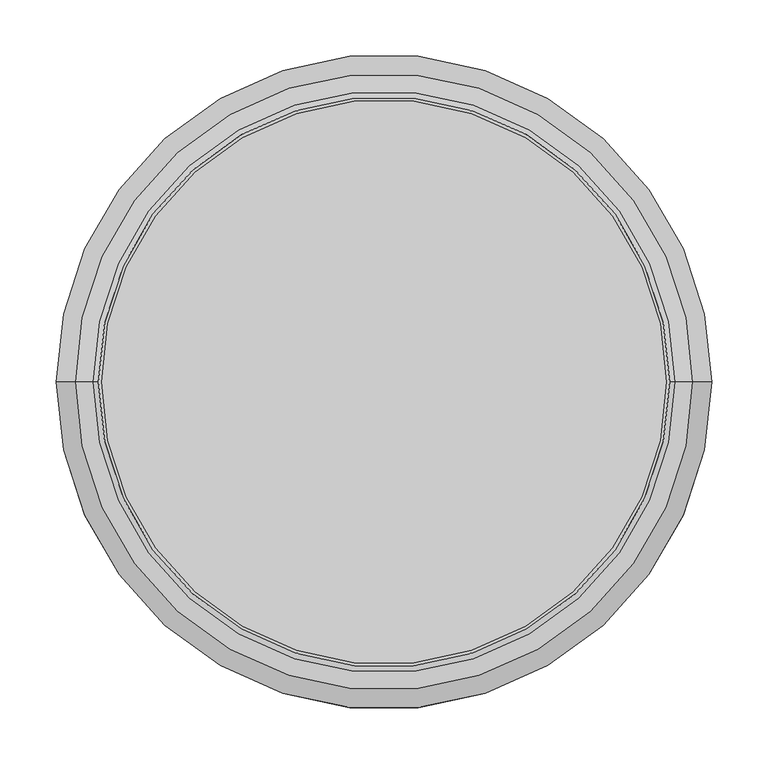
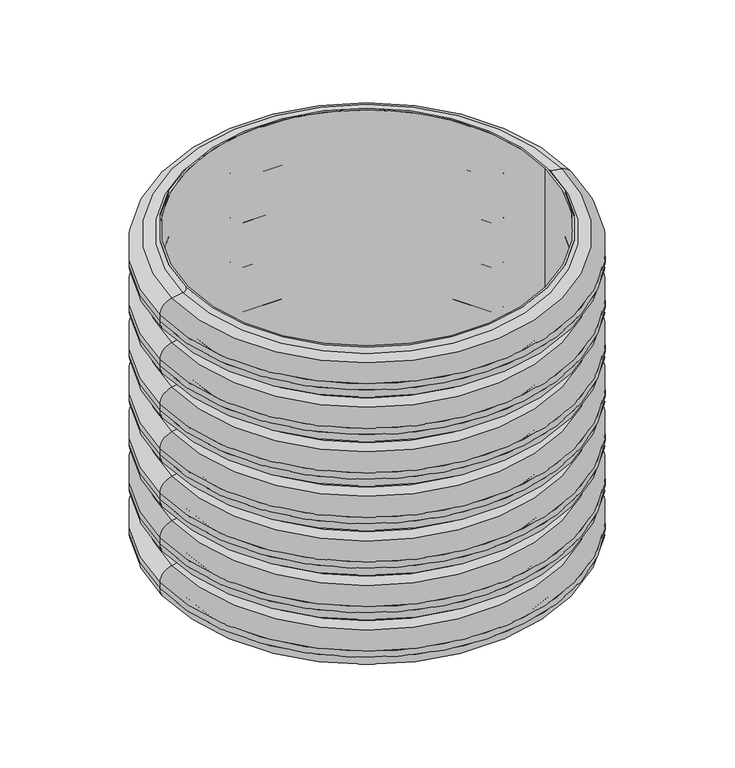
"""IFC4 building model written with IfcOpenShell, lengths in millimetres: proxy geometry, RSK C3 Chamber Sandcatch : RSK C3 C.SC."""

from ifc_helpers import new_model, si_unit, point, frame, origin, origin_with_axes, place, context, project, spatial, polyline, circle_curve, ellipse_curve, trimmed, source, transform, mapped, element, save
from ifc_brep_helpers import plane_surface, cylinder_surface, revolved_surface, advanced_brep


def generic_models_14b42d2b(model_context):
    return source(origin(), model_context, "Body", "AdvancedBrep", [
        advanced_brep(
        [(257.6543247, 0.0, -456.0911535), (-257.6543247, 0.0, -456.0911535), (-252.6962138, 0.0, -462.0), (252.6962138, 0.0, -462.0), (273.4729636, 0.0, -453.3019007), (-273.4729636, 0.0, -453.3019007), (290.0, 0.0, -433.6057456), (-290.0, 0.0, -433.6057456), (290.0, 0.0, -424.3484433), (-290.0, 0.0, -424.3484433), (273.4729636, 0.0, -404.6522882), (-273.4729636, 0.0, -404.6522882), (257.7842286, 0.0, -401.885941), (-257.7842286, 0.0, -401.885941), (-250.0, 0.0, 0.0229056), (250.0, 0.0, 0.0229056), (250.0, 0.0, -447.0), (-250.0, 0.0, -447.0), (257.7842286, 0.0, -390.0682479), (-257.7842286, 0.0, -390.0682479), (273.4729636, 0.0, -387.3019007), (-273.4729636, 0.0, -387.3019007), (290.0, 0.0, -367.6057456), (-290.0, 0.0, -367.6057456), (290.0, 0.0, -358.3484433), (-290.0, 0.0, -358.3484433), (273.4729636, 0.0, -338.6522882), (-273.4729636, 0.0, -338.6522882), (257.7842286, 0.0, -335.885941), (-257.7842286, 0.0, -335.885941), (257.7842286, 0.0, -324.0682479), (-257.7842286, 0.0, -324.0682479), (273.4729636, 0.0, -321.3019007), (-273.4729636, 0.0, -321.3019007), (290.0, 0.0, -301.6057456), (-290.0, 0.0, -301.6057456), (290.0, 0.0, -292.3484433), (-290.0, 0.0, -292.3484433), (273.4729636, 0.0, -272.6522882), (-273.4729636, 0.0, -272.6522882), (257.7842286, 0.0, -269.885941), (-257.7842286, 0.0, -269.885941), (257.7842286, 0.0, -258.0682479), (-257.7842286, 0.0, -258.0682479), (273.4729636, 0.0, -255.3019007), (-273.4729636, 0.0, -255.3019007), (290.0, 0.0, -235.6057456), (-290.0, 0.0, -235.6057456), (290.0, 0.0, -226.3484433), (-290.0, 0.0, -226.3484433), (273.4729636, 0.0, -206.6522882), (-273.4729636, 0.0, -206.6522882), (257.7842286, 0.0, -203.885941), (-257.7842286, 0.0, -203.885941), (257.7842286, 0.0, -192.0682479), (-257.7842286, 0.0, -192.0682479), (273.4729636, 0.0, -189.3019007), (-273.4729636, 0.0, -189.3019007), (290.0, 0.0, -169.6057456), (-290.0, 0.0, -169.6057456), (290.0, 0.0, -160.3484433), (-290.0, 0.0, -160.3484433), (273.4729636, 0.0, -140.6522882), (-273.4729636, 0.0, -140.6522882), (257.7842286, 0.0, -137.885941), (-257.7842286, 0.0, -137.885941), (257.7842286, 0.0, -126.0682479), (-257.7842286, 0.0, -126.0682479), (273.4729636, 0.0, -123.3019007), (-273.4729636, 0.0, -123.3019007), (290.0, 0.0, -103.6057456), (-290.0, 0.0, -103.6057456), (290.0, 0.0, -94.3484433), (-290.0, 0.0, -94.3484433), (273.4729636, 0.0, -74.6522882), (-273.4729636, 0.0, -74.6522882), (257.7842286, 0.0, -71.885941), (-257.7842286, 0.0, -71.885941), (257.7842286, 0.0, -60.0682479), (-257.7842286, 0.0, -60.0682479), (273.4729636, 0.0, -57.3019007), (-273.4729636, 0.0, -57.3019007), (290.0, 0.0, -37.6057456), (-290.0, 0.0, -37.6057456), (290.0, 0.0, -28.3484433), (-290.0, 0.0, -28.3484433), (273.4729636, 0.0, -8.6522882), (-273.4729636, 0.0, -8.6522882), (257.7842286, 0.0, -5.885941), (-257.7842286, 0.0, -5.885941), (252.8261176, 0.0, 0.0229056), (-252.8261176, 0.0, 0.0229056)],
        [
            (0, 1, circle_curve(frame((0.0, 0.0, -456.0911535), z_axis=(0.0, 0.0, -1.0), x_axis=(-1.0, 0.0, 0.0)), 257.6543247)),
            (1, 2, circle_curve(frame((-258.6962138, 0.0, -462.0), z_axis=(0.0, 1.0, 0.0), x_axis=(-1.0, 0.0, 0.0)), 6.0)),
            (2, 3, circle_curve(frame((0.0, 0.0, -462.0), z_axis=(0.0, 0.0, 1.0), x_axis=(-1.0, 0.0, 0.0)), 252.6962138)),
            (3, 0, circle_curve(frame((258.6962138, 0.0, -462.0), z_axis=(0.0, 1.0, 0.0), x_axis=(1.0, 0.0, 0.0)), 6.0)),
            (0, 4),
            (4, 5, circle_curve(frame((0.0, 0.0, -453.3019007), z_axis=(0.0, 0.0, -1.0), x_axis=(-1.0, 0.0, 0.0)), 273.4729636)),
            (5, 1),
            (4, 6, circle_curve(frame((270.0, 0.0, -433.6057456), z_axis=(0.0, -1.0, 0.0), x_axis=(1.0, 0.0, 0.0)), 20.0)),
            (6, 7, circle_curve(frame((0.0, 0.0, -433.6057456), z_axis=(0.0, 0.0, -1.0), x_axis=(-1.0, 0.0, 0.0)), 290.0)),
            (7, 5, circle_curve(frame((-270.0, 0.0, -433.6057456), z_axis=(0.0, -1.0, 0.0), x_axis=(-1.0, 0.0, 0.0)), 20.0)),
            (6, 8),
            (8, 9, circle_curve(frame((0.0, 0.0, -424.3484433), z_axis=(0.0, 0.0, -1.0), x_axis=(-1.0, 0.0, 0.0)), 290.0)),
            (9, 7),
            (8, 10, circle_curve(frame((270.0, 0.0, -424.3484433), z_axis=(0.0, -1.0, 0.0), x_axis=(1.0, 0.0, 0.0)), 20.0)),
            (10, 11, circle_curve(frame((0.0, 0.0, -404.6522882), z_axis=(0.0, 0.0, -1.0), x_axis=(-1.0, 0.0, 0.0)), 273.4729636)),
            (11, 9, circle_curve(frame((-270.0, 0.0, -424.3484433), z_axis=(0.0, -1.0, 0.0), x_axis=(-1.0, 0.0, 0.0)), 20.0)),
            (10, 12),
            (12, 13, circle_curve(frame((0.0, 0.0, -401.885941), z_axis=(0.0, 0.0, -1.0), x_axis=(-1.0, 0.0, 0.0)), 257.7842286)),
            (13, 11),
            (14, 15, circle_curve(frame((0.0, 0.0, 0.0229056), z_axis=(0.0, 0.0, 1.0), x_axis=(-1.0, 0.0, 0.0)), 250.0)),
            (15, 16),
            (16, 17, circle_curve(frame((0.0, 0.0, -447.0), z_axis=(0.0, 0.0, -1.0), x_axis=(-1.0, 0.0, 0.0)), 250.0)),
            (17, 14),
            (1, 0, circle_curve(frame((0.0, 0.0, -456.0911535), z_axis=(0.0, 0.0, -1.0), x_axis=(1.0, 0.0, 0.0)), 257.6543247)),
            (3, 2, circle_curve(frame((0.0, 0.0, -462.0), z_axis=(0.0, 0.0, 1.0), x_axis=(1.0, 0.0, 0.0)), 252.6962138)),
            (5, 4, circle_curve(frame((0.0, 0.0, -453.3019007), z_axis=(0.0, 0.0, -1.0), x_axis=(1.0, 0.0, 0.0)), 273.4729636)),
            (7, 6, circle_curve(frame((0.0, 0.0, -433.6057456), z_axis=(0.0, 0.0, -1.0), x_axis=(1.0, 0.0, 0.0)), 290.0)),
            (9, 8, circle_curve(frame((0.0, 0.0, -424.3484433), z_axis=(0.0, 0.0, -1.0), x_axis=(1.0, 0.0, 0.0)), 290.0)),
            (11, 10, circle_curve(frame((0.0, 0.0, -404.6522882), z_axis=(0.0, 0.0, -1.0), x_axis=(1.0, 0.0, 0.0)), 273.4729636)),
            (13, 12, circle_curve(frame((0.0, 0.0, -401.885941), z_axis=(0.0, 0.0, -1.0), x_axis=(1.0, 0.0, 0.0)), 257.7842286)),
            (15, 14, circle_curve(frame((0.0, 0.0, 0.0229056), z_axis=(0.0, 0.0, 1.0), x_axis=(1.0, 0.0, 0.0)), 250.0)),
            (17, 16, circle_curve(frame((0.0, 0.0, -447.0), z_axis=(0.0, 0.0, -1.0), x_axis=(1.0, 0.0, 0.0)), 250.0)),
            (12, 18, circle_curve(frame((258.8261176, 0.0, -395.9770944), z_axis=(0.0, 1.0, 0.0), x_axis=(1.0, 0.0, 0.0)), 6.0)),
            (18, 19, circle_curve(frame((0.0, 0.0, -390.0682479), z_axis=(0.0, 0.0, -1.0), x_axis=(-1.0, 0.0, 0.0)), 257.7842286)),
            (19, 13, circle_curve(frame((-258.8261176, 0.0, -395.9770944), z_axis=(0.0, 1.0, 0.0), x_axis=(-1.0, 0.0, 0.0)), 6.0)),
            (18, 20),
            (20, 21, circle_curve(frame((0.0, 0.0, -387.3019007), z_axis=(0.0, 0.0, -1.0), x_axis=(-1.0, 0.0, 0.0)), 273.4729636)),
            (21, 19),
            (20, 22, circle_curve(frame((270.0, 0.0, -367.6057456), z_axis=(0.0, -1.0, 0.0), x_axis=(1.0, 0.0, 0.0)), 20.0)),
            (22, 23, circle_curve(frame((0.0, 0.0, -367.6057456), z_axis=(0.0, 0.0, -1.0), x_axis=(-1.0, 0.0, 0.0)), 290.0)),
            (23, 21, circle_curve(frame((-270.0, 0.0, -367.6057456), z_axis=(0.0, -1.0, 0.0), x_axis=(-1.0, 0.0, 0.0)), 20.0)),
            (22, 24),
            (24, 25, circle_curve(frame((0.0, 0.0, -358.3484433), z_axis=(0.0, 0.0, -1.0), x_axis=(-1.0, 0.0, 0.0)), 290.0)),
            (25, 23),
            (24, 26, circle_curve(frame((270.0, 0.0, -358.3484433), z_axis=(0.0, -1.0, 0.0), x_axis=(1.0, 0.0, 0.0)), 20.0)),
            (26, 27, circle_curve(frame((0.0, 0.0, -338.6522882), z_axis=(0.0, 0.0, -1.0), x_axis=(-1.0, 0.0, 0.0)), 273.4729636)),
            (27, 25, circle_curve(frame((-270.0, 0.0, -358.3484433), z_axis=(0.0, -1.0, 0.0), x_axis=(-1.0, 0.0, 0.0)), 20.0)),
            (26, 28),
            (28, 29, circle_curve(frame((0.0, 0.0, -335.885941), z_axis=(0.0, 0.0, -1.0), x_axis=(-1.0, 0.0, 0.0)), 257.7842286)),
            (29, 27),
            (28, 30, circle_curve(frame((258.8261176, 0.0, -329.9770944), z_axis=(0.0, 1.0, 0.0), x_axis=(1.0, 0.0, 0.0)), 6.0)),
            (30, 31, circle_curve(frame((0.0, 0.0, -324.0682479), z_axis=(0.0, 0.0, -1.0), x_axis=(-1.0, 0.0, 0.0)), 257.7842286)),
            (31, 29, circle_curve(frame((-258.8261176, 0.0, -329.9770944), z_axis=(0.0, 1.0, 0.0), x_axis=(-1.0, 0.0, 0.0)), 6.0)),
            (30, 32),
            (32, 33, circle_curve(frame((0.0, 0.0, -321.3019007), z_axis=(0.0, 0.0, -1.0), x_axis=(-1.0, 0.0, 0.0)), 273.4729636)),
            (33, 31),
            (32, 34, circle_curve(frame((270.0, 0.0, -301.6057456), z_axis=(0.0, -1.0, 0.0), x_axis=(1.0, 0.0, 0.0)), 20.0)),
            (34, 35, circle_curve(frame((0.0, 0.0, -301.6057456), z_axis=(0.0, 0.0, -1.0), x_axis=(-1.0, 0.0, 0.0)), 290.0)),
            (35, 33, circle_curve(frame((-270.0, 0.0, -301.6057456), z_axis=(0.0, -1.0, 0.0), x_axis=(-1.0, 0.0, 0.0)), 20.0)),
            (34, 36),
            (36, 37, circle_curve(frame((0.0, 0.0, -292.3484433), z_axis=(0.0, 0.0, -1.0), x_axis=(-1.0, 0.0, 0.0)), 290.0)),
            (37, 35),
            (36, 38, circle_curve(frame((270.0, 0.0, -292.3484433), z_axis=(0.0, -1.0, 0.0), x_axis=(1.0, 0.0, 0.0)), 20.0)),
            (38, 39, circle_curve(frame((0.0, 0.0, -272.6522882), z_axis=(0.0, 0.0, -1.0), x_axis=(-1.0, 0.0, 0.0)), 273.4729636)),
            (39, 37, circle_curve(frame((-270.0, 0.0, -292.3484433), z_axis=(0.0, -1.0, 0.0), x_axis=(-1.0, 0.0, 0.0)), 20.0)),
            (38, 40),
            (40, 41, circle_curve(frame((0.0, 0.0, -269.885941), z_axis=(0.0, 0.0, -1.0), x_axis=(-1.0, 0.0, 0.0)), 257.7842286)),
            (41, 39),
            (40, 42, circle_curve(frame((258.8261176, 0.0, -263.9770944), z_axis=(0.0, 1.0, 0.0), x_axis=(1.0, 0.0, 0.0)), 6.0)),
            (42, 43, circle_curve(frame((0.0, 0.0, -258.0682479), z_axis=(0.0, 0.0, -1.0), x_axis=(-1.0, 0.0, 0.0)), 257.7842286)),
            (43, 41, circle_curve(frame((-258.8261176, 0.0, -263.9770944), z_axis=(0.0, 1.0, 0.0), x_axis=(-1.0, 0.0, 0.0)), 6.0)),
            (42, 44),
            (44, 45, circle_curve(frame((0.0, 0.0, -255.3019007), z_axis=(0.0, 0.0, -1.0), x_axis=(-1.0, 0.0, 0.0)), 273.4729636)),
            (45, 43),
            (44, 46, circle_curve(frame((270.0, 0.0, -235.6057456), z_axis=(0.0, -1.0, 0.0), x_axis=(1.0, 0.0, 0.0)), 20.0)),
            (46, 47, circle_curve(frame((0.0, 0.0, -235.6057456), z_axis=(0.0, 0.0, -1.0), x_axis=(-1.0, 0.0, 0.0)), 290.0)),
            (47, 45, circle_curve(frame((-270.0, 0.0, -235.6057456), z_axis=(0.0, -1.0, 0.0), x_axis=(-1.0, 0.0, 0.0)), 20.0)),
            (46, 48),
            (48, 49, circle_curve(frame((0.0, 0.0, -226.3484433), z_axis=(0.0, 0.0, -1.0), x_axis=(-1.0, 0.0, 0.0)), 290.0)),
            (49, 47),
            (48, 50, circle_curve(frame((270.0, 0.0, -226.3484433), z_axis=(0.0, -1.0, 0.0), x_axis=(1.0, 0.0, 0.0)), 20.0)),
            (50, 51, circle_curve(frame((0.0, 0.0, -206.6522882), z_axis=(0.0, 0.0, -1.0), x_axis=(-1.0, 0.0, 0.0)), 273.4729636)),
            (51, 49, circle_curve(frame((-270.0, 0.0, -226.3484433), z_axis=(0.0, -1.0, 0.0), x_axis=(-1.0, 0.0, 0.0)), 20.0)),
            (50, 52),
            (52, 53, circle_curve(frame((0.0, 0.0, -203.885941), z_axis=(0.0, 0.0, -1.0), x_axis=(-1.0, 0.0, 0.0)), 257.7842286)),
            (53, 51),
            (52, 54, circle_curve(frame((258.8261176, 0.0, -197.9770944), z_axis=(0.0, 1.0, 0.0), x_axis=(1.0, 0.0, 0.0)), 6.0)),
            (54, 55, circle_curve(frame((0.0, 0.0, -192.0682479), z_axis=(0.0, 0.0, -1.0), x_axis=(-1.0, 0.0, 0.0)), 257.7842286)),
            (55, 53, circle_curve(frame((-258.8261176, 0.0, -197.9770944), z_axis=(0.0, 1.0, 0.0), x_axis=(-1.0, 0.0, 0.0)), 6.0)),
            (54, 56),
            (56, 57, circle_curve(frame((0.0, 0.0, -189.3019007), z_axis=(0.0, 0.0, -1.0), x_axis=(-1.0, 0.0, 0.0)), 273.4729636)),
            (57, 55),
            (56, 58, circle_curve(frame((270.0, 0.0, -169.6057456), z_axis=(0.0, -1.0, 0.0), x_axis=(1.0, 0.0, 0.0)), 20.0)),
            (58, 59, circle_curve(frame((0.0, 0.0, -169.6057456), z_axis=(0.0, 0.0, -1.0), x_axis=(-1.0, 0.0, 0.0)), 290.0)),
            (59, 57, circle_curve(frame((-270.0, 0.0, -169.6057456), z_axis=(0.0, -1.0, 0.0), x_axis=(-1.0, 0.0, 0.0)), 20.0)),
            (58, 60),
            (60, 61, circle_curve(frame((0.0, 0.0, -160.3484433), z_axis=(0.0, 0.0, -1.0), x_axis=(-1.0, 0.0, 0.0)), 290.0)),
            (61, 59),
            (60, 62, circle_curve(frame((270.0, 0.0, -160.3484433), z_axis=(0.0, -1.0, 0.0), x_axis=(1.0, 0.0, 0.0)), 20.0)),
            (62, 63, circle_curve(frame((0.0, 0.0, -140.6522882), z_axis=(0.0, 0.0, -1.0), x_axis=(-1.0, 0.0, 0.0)), 273.4729636)),
            (63, 61, circle_curve(frame((-270.0, 0.0, -160.3484433), z_axis=(0.0, -1.0, 0.0), x_axis=(-1.0, 0.0, 0.0)), 20.0)),
            (62, 64),
            (64, 65, circle_curve(frame((0.0, 0.0, -137.885941), z_axis=(0.0, 0.0, -1.0), x_axis=(-1.0, 0.0, 0.0)), 257.7842286)),
            (65, 63),
            (64, 66, circle_curve(frame((258.8261176, 0.0, -131.9770944), z_axis=(0.0, 1.0, 0.0), x_axis=(1.0, 0.0, 0.0)), 6.0)),
            (66, 67, circle_curve(frame((0.0, 0.0, -126.0682479), z_axis=(0.0, 0.0, -1.0), x_axis=(-1.0, 0.0, 0.0)), 257.7842286)),
            (67, 65, circle_curve(frame((-258.8261176, 0.0, -131.9770944), z_axis=(0.0, 1.0, 0.0), x_axis=(-1.0, 0.0, 0.0)), 6.0)),
            (66, 68),
            (68, 69, circle_curve(frame((0.0, 0.0, -123.3019007), z_axis=(0.0, 0.0, -1.0), x_axis=(-1.0, 0.0, 0.0)), 273.4729636)),
            (69, 67),
            (68, 70, circle_curve(frame((270.0, 0.0, -103.6057456), z_axis=(0.0, -1.0, 0.0), x_axis=(1.0, 0.0, 0.0)), 20.0)),
            (70, 71, circle_curve(frame((0.0, 0.0, -103.6057456), z_axis=(0.0, 0.0, -1.0), x_axis=(-1.0, 0.0, 0.0)), 290.0)),
            (71, 69, circle_curve(frame((-270.0, 0.0, -103.6057456), z_axis=(0.0, -1.0, 0.0), x_axis=(-1.0, 0.0, 0.0)), 20.0)),
            (70, 72),
            (72, 73, circle_curve(frame((0.0, 0.0, -94.3484433), z_axis=(0.0, 0.0, -1.0), x_axis=(-1.0, 0.0, 0.0)), 290.0)),
            (73, 71),
            (72, 74, circle_curve(frame((270.0, 0.0, -94.3484433), z_axis=(0.0, -1.0, 0.0), x_axis=(1.0, 0.0, 0.0)), 20.0)),
            (74, 75, circle_curve(frame((0.0, 0.0, -74.6522882), z_axis=(0.0, 0.0, -1.0), x_axis=(-1.0, 0.0, 0.0)), 273.4729636)),
            (75, 73, circle_curve(frame((-270.0, 0.0, -94.3484433), z_axis=(0.0, -1.0, 0.0), x_axis=(-1.0, 0.0, 0.0)), 20.0)),
            (74, 76),
            (76, 77, circle_curve(frame((0.0, 0.0, -71.885941), z_axis=(0.0, 0.0, -1.0), x_axis=(-1.0, 0.0, 0.0)), 257.7842286)),
            (77, 75),
            (76, 78, circle_curve(frame((258.8261176, 0.0, -65.9770944), z_axis=(0.0, 1.0, 0.0), x_axis=(1.0, 0.0, 0.0)), 6.0)),
            (78, 79, circle_curve(frame((0.0, 0.0, -60.0682479), z_axis=(0.0, 0.0, -1.0), x_axis=(-1.0, 0.0, 0.0)), 257.7842286)),
            (79, 77, circle_curve(frame((-258.8261176, 0.0, -65.9770944), z_axis=(0.0, 1.0, 0.0), x_axis=(-1.0, 0.0, 0.0)), 6.0)),
            (78, 80),
            (80, 81, circle_curve(frame((0.0, 0.0, -57.3019007), z_axis=(0.0, 0.0, -1.0), x_axis=(-1.0, 0.0, 0.0)), 273.4729636)),
            (81, 79),
            (80, 82, circle_curve(frame((270.0, 0.0, -37.6057456), z_axis=(0.0, -1.0, 0.0), x_axis=(1.0, 0.0, 0.0)), 20.0)),
            (82, 83, circle_curve(frame((0.0, 0.0, -37.6057456), z_axis=(0.0, 0.0, -1.0), x_axis=(-1.0, 0.0, 0.0)), 290.0)),
            (83, 81, circle_curve(frame((-270.0, 0.0, -37.6057456), z_axis=(0.0, -1.0, 0.0), x_axis=(-1.0, 0.0, 0.0)), 20.0)),
            (82, 84),
            (84, 85, circle_curve(frame((0.0, 0.0, -28.3484433), z_axis=(0.0, 0.0, -1.0), x_axis=(-1.0, 0.0, 0.0)), 290.0)),
            (85, 83),
            (84, 86, circle_curve(frame((270.0, 0.0, -28.3484433), z_axis=(0.0, -1.0, 0.0), x_axis=(1.0, 0.0, 0.0)), 20.0)),
            (86, 87, circle_curve(frame((0.0, 0.0, -8.6522882), z_axis=(0.0, 0.0, -1.0), x_axis=(-1.0, 0.0, 0.0)), 273.4729636)),
            (87, 85, circle_curve(frame((-270.0, 0.0, -28.3484433), z_axis=(0.0, -1.0, 0.0), x_axis=(-1.0, 0.0, 0.0)), 20.0)),
            (86, 88),
            (88, 89, circle_curve(frame((0.0, 0.0, -5.885941), z_axis=(0.0, 0.0, -1.0), x_axis=(-1.0, 0.0, 0.0)), 257.7842286)),
            (89, 87),
            (88, 90, circle_curve(frame((258.8261176, 0.0, 0.0229056), z_axis=(0.0, 1.0, 0.0), x_axis=(1.0, 0.0, 0.0)), 6.0)),
            (90, 91, circle_curve(frame((0.0, 0.0, 0.0229056), z_axis=(0.0, 0.0, -1.0), x_axis=(-1.0, 0.0, 0.0)), 252.8261176)),
            (91, 89, circle_curve(frame((-258.8261176, 0.0, 0.0229056), z_axis=(0.0, 1.0, 0.0), x_axis=(-1.0, 0.0, 0.0)), 6.0)),
            (19, 18, circle_curve(frame((0.0, 0.0, -390.0682479), z_axis=(0.0, 0.0, -1.0), x_axis=(1.0, 0.0, 0.0)), 257.7842286)),
            (21, 20, circle_curve(frame((0.0, 0.0, -387.3019007), z_axis=(0.0, 0.0, -1.0), x_axis=(1.0, 0.0, 0.0)), 273.4729636)),
            (23, 22, circle_curve(frame((0.0, 0.0, -367.6057456), z_axis=(0.0, 0.0, -1.0), x_axis=(1.0, 0.0, 0.0)), 290.0)),
            (25, 24, circle_curve(frame((0.0, 0.0, -358.3484433), z_axis=(0.0, 0.0, -1.0), x_axis=(1.0, 0.0, 0.0)), 290.0)),
            (27, 26, circle_curve(frame((0.0, 0.0, -338.6522882), z_axis=(0.0, 0.0, -1.0), x_axis=(1.0, 0.0, 0.0)), 273.4729636)),
            (29, 28, circle_curve(frame((0.0, 0.0, -335.885941), z_axis=(0.0, 0.0, -1.0), x_axis=(1.0, 0.0, 0.0)), 257.7842286)),
            (31, 30, circle_curve(frame((0.0, 0.0, -324.0682479), z_axis=(0.0, 0.0, -1.0), x_axis=(1.0, 0.0, 0.0)), 257.7842286)),
            (33, 32, circle_curve(frame((0.0, 0.0, -321.3019007), z_axis=(0.0, 0.0, -1.0), x_axis=(1.0, 0.0, 0.0)), 273.4729636)),
            (35, 34, circle_curve(frame((0.0, 0.0, -301.6057456), z_axis=(0.0, 0.0, -1.0), x_axis=(1.0, 0.0, 0.0)), 290.0)),
            (37, 36, circle_curve(frame((0.0, 0.0, -292.3484433), z_axis=(0.0, 0.0, -1.0), x_axis=(1.0, 0.0, 0.0)), 290.0)),
            (39, 38, circle_curve(frame((0.0, 0.0, -272.6522882), z_axis=(0.0, 0.0, -1.0), x_axis=(1.0, 0.0, 0.0)), 273.4729636)),
            (41, 40, circle_curve(frame((0.0, 0.0, -269.885941), z_axis=(0.0, 0.0, -1.0), x_axis=(1.0, 0.0, 0.0)), 257.7842286)),
            (43, 42, circle_curve(frame((0.0, 0.0, -258.0682479), z_axis=(0.0, 0.0, -1.0), x_axis=(1.0, 0.0, 0.0)), 257.7842286)),
            (45, 44, circle_curve(frame((0.0, 0.0, -255.3019007), z_axis=(0.0, 0.0, -1.0), x_axis=(1.0, 0.0, 0.0)), 273.4729636)),
            (47, 46, circle_curve(frame((0.0, 0.0, -235.6057456), z_axis=(0.0, 0.0, -1.0), x_axis=(1.0, 0.0, 0.0)), 290.0)),
            (49, 48, circle_curve(frame((0.0, 0.0, -226.3484433), z_axis=(0.0, 0.0, -1.0), x_axis=(1.0, 0.0, 0.0)), 290.0)),
            (51, 50, circle_curve(frame((0.0, 0.0, -206.6522882), z_axis=(0.0, 0.0, -1.0), x_axis=(1.0, 0.0, 0.0)), 273.4729636)),
            (53, 52, circle_curve(frame((0.0, 0.0, -203.885941), z_axis=(0.0, 0.0, -1.0), x_axis=(1.0, 0.0, 0.0)), 257.7842286)),
            (55, 54, circle_curve(frame((0.0, 0.0, -192.0682479), z_axis=(0.0, 0.0, -1.0), x_axis=(1.0, 0.0, 0.0)), 257.7842286)),
            (57, 56, circle_curve(frame((0.0, 0.0, -189.3019007), z_axis=(0.0, 0.0, -1.0), x_axis=(1.0, 0.0, 0.0)), 273.4729636)),
            (59, 58, circle_curve(frame((0.0, 0.0, -169.6057456), z_axis=(0.0, 0.0, -1.0), x_axis=(1.0, 0.0, 0.0)), 290.0)),
            (61, 60, circle_curve(frame((0.0, 0.0, -160.3484433), z_axis=(0.0, 0.0, -1.0), x_axis=(1.0, 0.0, 0.0)), 290.0)),
            (63, 62, circle_curve(frame((0.0, 0.0, -140.6522882), z_axis=(0.0, 0.0, -1.0), x_axis=(1.0, 0.0, 0.0)), 273.4729636)),
            (65, 64, circle_curve(frame((0.0, 0.0, -137.885941), z_axis=(0.0, 0.0, -1.0), x_axis=(1.0, 0.0, 0.0)), 257.7842286)),
            (67, 66, circle_curve(frame((0.0, 0.0, -126.0682479), z_axis=(0.0, 0.0, -1.0), x_axis=(1.0, 0.0, 0.0)), 257.7842286)),
            (69, 68, circle_curve(frame((0.0, 0.0, -123.3019007), z_axis=(0.0, 0.0, -1.0), x_axis=(1.0, 0.0, 0.0)), 273.4729636)),
            (71, 70, circle_curve(frame((0.0, 0.0, -103.6057456), z_axis=(0.0, 0.0, -1.0), x_axis=(1.0, 0.0, 0.0)), 290.0)),
            (73, 72, circle_curve(frame((0.0, 0.0, -94.3484433), z_axis=(0.0, 0.0, -1.0), x_axis=(1.0, 0.0, 0.0)), 290.0)),
            (75, 74, circle_curve(frame((0.0, 0.0, -74.6522882), z_axis=(0.0, 0.0, -1.0), x_axis=(1.0, 0.0, 0.0)), 273.4729636)),
            (77, 76, circle_curve(frame((0.0, 0.0, -71.885941), z_axis=(0.0, 0.0, -1.0), x_axis=(1.0, 0.0, 0.0)), 257.7842286)),
            (79, 78, circle_curve(frame((0.0, 0.0, -60.0682479), z_axis=(0.0, 0.0, -1.0), x_axis=(1.0, 0.0, 0.0)), 257.7842286)),
            (81, 80, circle_curve(frame((0.0, 0.0, -57.3019007), z_axis=(0.0, 0.0, -1.0), x_axis=(1.0, 0.0, 0.0)), 273.4729636)),
            (83, 82, circle_curve(frame((0.0, 0.0, -37.6057456), z_axis=(0.0, 0.0, -1.0), x_axis=(1.0, 0.0, 0.0)), 290.0)),
            (85, 84, circle_curve(frame((0.0, 0.0, -28.3484433), z_axis=(0.0, 0.0, -1.0), x_axis=(1.0, 0.0, 0.0)), 290.0)),
            (87, 86, circle_curve(frame((0.0, 0.0, -8.6522882), z_axis=(0.0, 0.0, -1.0), x_axis=(1.0, 0.0, 0.0)), 273.4729636)),
            (89, 88, circle_curve(frame((0.0, 0.0, -5.885941), z_axis=(0.0, 0.0, -1.0), x_axis=(1.0, 0.0, 0.0)), 257.7842286)),
            (91, 90, circle_curve(frame((0.0, 0.0, 0.0229056), z_axis=(0.0, 0.0, -1.0), x_axis=(1.0, 0.0, 0.0)), 252.8261176)),
        ],
        [
            revolved_surface(trimmed(ellipse_curve(frame((-258.6962138, 0.0, -462.0), z_axis=(0.0, -1.0, 0.0), x_axis=(-1.0, 0.0, 0.0)), 6.0, 6.0), [point((-252.6962138, 0.0, -462.0))], [point((-257.6543247, 0.0, -456.0911535))], True, "CARTESIAN"), (0.0, 0.0, 0.0), (0.0, 0.0, 1.0)),
            revolved_surface(polyline([(-257.6543247, 0.0, -456.0911535), (-273.4729636, 0.0, -453.3019007)]), (0.0, 0.0, 0.0), (0.0, 0.0, 1.0)),
            revolved_surface(trimmed(ellipse_curve(frame((-270.0, 0.0, -433.6057456), z_axis=(0.0, 1.0, 0.0), x_axis=(-1.0, 0.0, 0.0)), 20.0, 20.0), [point((-273.4729636, 0.0, -453.3019007))], [point((-290.0, 0.0, -433.6057456))], True, "CARTESIAN"), (0.0, 0.0, 0.0), (0.0, 0.0, 1.0)),
            cylinder_surface(frame((0.0, 0.0, 0.0), z_axis=(0.0, 0.0, 1.0), x_axis=(-1.0, 0.0, 0.0)), 290.0),
            revolved_surface(trimmed(ellipse_curve(frame((-270.0, 0.0, -424.3484433), z_axis=(0.0, 1.0, 0.0), x_axis=(-1.0, 0.0, 0.0)), 20.0, 20.0), [point((-290.0, 0.0, -424.3484433))], [point((-273.4729636, 0.0, -404.6522882))], True, "CARTESIAN"), (0.0, 0.0, 0.0), (0.0, 0.0, 1.0)),
            revolved_surface(polyline([(-273.4729636, 0.0, -404.6522882), (-257.7842286, 0.0, -401.885941)]), (0.0, 0.0, 0.0), (0.0, 0.0, 1.0)),
            revolved_surface(polyline([(-250.0, 0.0, 0.0229056), (-250.0, 0.0, -447.0)]), (0.0, 0.0, 0.0), (0.0, 0.0, 1.0)),
            revolved_surface(trimmed(ellipse_curve(frame((258.6962138, 0.0, -462.0), z_axis=(0.0, 1.0, 0.0), x_axis=(1.0, 0.0, 0.0)), 6.0, 6.0), [point((252.6962138, 0.0, -462.0))], [point((257.6543247, 0.0, -456.0911535))], True, "CARTESIAN"), (0.0, 0.0, 0.0), (0.0, 0.0, 1.0)),
            revolved_surface(polyline([(257.6543247, 0.0, -456.0911535), (273.4729636, 0.0, -453.3019007)]), (0.0, 0.0, 0.0), (0.0, 0.0, 1.0)),
            revolved_surface(trimmed(ellipse_curve(frame((270.0, 0.0, -433.6057456), z_axis=(0.0, -1.0, 0.0), x_axis=(1.0, 0.0, 0.0)), 20.0, 20.0), [point((273.4729636, 0.0, -453.3019007))], [point((290.0, 0.0, -433.6057456))], True, "CARTESIAN"), (0.0, 0.0, 0.0), (0.0, 0.0, 1.0)),
            cylinder_surface(origin_with_axes(), 290.0),
            revolved_surface(trimmed(ellipse_curve(frame((270.0, 0.0, -424.3484433), z_axis=(0.0, -1.0, 0.0), x_axis=(1.0, 0.0, 0.0)), 20.0, 20.0), [point((290.0, 0.0, -424.3484433))], [point((273.4729636, 0.0, -404.6522882))], True, "CARTESIAN"), (0.0, 0.0, 0.0), (0.0, 0.0, 1.0)),
            revolved_surface(polyline([(273.4729636, 0.0, -404.6522882), (257.7842286, 0.0, -401.885941)]), (0.0, 0.0, 0.0), (0.0, 0.0, 1.0)),
            revolved_surface(polyline([(250.0, 0.0, 0.0229056), (250.0, 0.0, -447.0)]), (0.0, 0.0, 0.0), (0.0, 0.0, 1.0)),
            plane_surface(frame((0.0, 0.0, -462.0), z_axis=(0.0, 0.0, -1.0), x_axis=(1.0, 0.0, 0.0))),
            revolved_surface(trimmed(ellipse_curve(frame((-258.8261176, 0.0, -395.9770944), z_axis=(0.0, -1.0, 0.0), x_axis=(-1.0, 0.0, 0.0)), 6.0, 6.0), [point((-257.7842286, 0.0, -401.885941))], [point((-257.7842286, 0.0, -390.0682479))], True, "CARTESIAN"), (0.0, 0.0, 0.0), (0.0, 0.0, 1.0)),
            revolved_surface(polyline([(-257.7842286, 0.0, -390.0682479), (-273.4729636, 0.0, -387.3019007)]), (0.0, 0.0, 0.0), (0.0, 0.0, 1.0)),
            revolved_surface(trimmed(ellipse_curve(frame((-270.0, 0.0, -367.6057456), z_axis=(0.0, 1.0, 0.0), x_axis=(-1.0, 0.0, 0.0)), 20.0, 20.0), [point((-273.4729636, 0.0, -387.3019007))], [point((-290.0, 0.0, -367.6057456))], True, "CARTESIAN"), (0.0, 0.0, 0.0), (0.0, 0.0, 1.0)),
            revolved_surface(trimmed(ellipse_curve(frame((-270.0, 0.0, -358.3484433), z_axis=(0.0, 1.0, 0.0), x_axis=(-1.0, 0.0, 0.0)), 20.0, 20.0), [point((-290.0, 0.0, -358.3484433))], [point((-273.4729636, 0.0, -338.6522882))], True, "CARTESIAN"), (0.0, 0.0, 0.0), (0.0, 0.0, 1.0)),
            revolved_surface(polyline([(-273.4729636, 0.0, -338.6522882), (-257.7842286, 0.0, -335.885941)]), (0.0, 0.0, 0.0), (0.0, 0.0, 1.0)),
            revolved_surface(trimmed(ellipse_curve(frame((-258.8261176, 0.0, -329.9770944), z_axis=(0.0, -1.0, 0.0), x_axis=(-1.0, 0.0, 0.0)), 6.0, 6.0), [point((-257.7842286, 0.0, -335.885941))], [point((-257.7842286, 0.0, -324.0682479))], True, "CARTESIAN"), (0.0, 0.0, 0.0), (0.0, 0.0, 1.0)),
            revolved_surface(polyline([(-257.7842286, 0.0, -324.0682479), (-273.4729636, 0.0, -321.3019007)]), (0.0, 0.0, 0.0), (0.0, 0.0, 1.0)),
            revolved_surface(trimmed(ellipse_curve(frame((-270.0, 0.0, -301.6057456), z_axis=(0.0, 1.0, 0.0), x_axis=(-1.0, 0.0, 0.0)), 20.0, 20.0), [point((-273.4729636, 0.0, -321.3019007))], [point((-290.0, 0.0, -301.6057456))], True, "CARTESIAN"), (0.0, 0.0, 0.0), (0.0, 0.0, 1.0)),
            revolved_surface(trimmed(ellipse_curve(frame((-270.0, 0.0, -292.3484433), z_axis=(0.0, 1.0, 0.0), x_axis=(-1.0, 0.0, 0.0)), 20.0, 20.0), [point((-290.0, 0.0, -292.3484433))], [point((-273.4729636, 0.0, -272.6522882))], True, "CARTESIAN"), (0.0, 0.0, 0.0), (0.0, 0.0, 1.0)),
            revolved_surface(polyline([(-273.4729636, 0.0, -272.6522882), (-257.7842286, 0.0, -269.885941)]), (0.0, 0.0, 0.0), (0.0, 0.0, 1.0)),
            revolved_surface(trimmed(ellipse_curve(frame((-258.8261176, 0.0, -263.9770944), z_axis=(0.0, -1.0, 0.0), x_axis=(-1.0, 0.0, 0.0)), 6.0, 6.0), [point((-257.7842286, 0.0, -269.885941))], [point((-257.7842286, 0.0, -258.0682479))], True, "CARTESIAN"), (0.0, 0.0, 0.0), (0.0, 0.0, 1.0)),
            revolved_surface(polyline([(-257.7842286, 0.0, -258.0682479), (-273.4729636, 0.0, -255.3019007)]), (0.0, 0.0, 0.0), (0.0, 0.0, 1.0)),
            revolved_surface(trimmed(ellipse_curve(frame((-270.0, 0.0, -235.6057456), z_axis=(0.0, 1.0, 0.0), x_axis=(-1.0, 0.0, 0.0)), 20.0, 20.0), [point((-273.4729636, 0.0, -255.3019007))], [point((-290.0, 0.0, -235.6057456))], True, "CARTESIAN"), (0.0, 0.0, 0.0), (0.0, 0.0, 1.0)),
            revolved_surface(trimmed(ellipse_curve(frame((-270.0, 0.0, -226.3484433), z_axis=(0.0, 1.0, 0.0), x_axis=(-1.0, 0.0, 0.0)), 20.0, 20.0), [point((-290.0, 0.0, -226.3484433))], [point((-273.4729636, 0.0, -206.6522882))], True, "CARTESIAN"), (0.0, 0.0, 0.0), (0.0, 0.0, 1.0)),
            revolved_surface(polyline([(-273.4729636, 0.0, -206.6522882), (-257.7842286, 0.0, -203.885941)]), (0.0, 0.0, 0.0), (0.0, 0.0, 1.0)),
            revolved_surface(trimmed(ellipse_curve(frame((-258.8261176, 0.0, -197.9770944), z_axis=(0.0, -1.0, 0.0), x_axis=(-1.0, 0.0, 0.0)), 6.0, 6.0), [point((-257.7842286, 0.0, -203.885941))], [point((-257.7842286, 0.0, -192.0682479))], True, "CARTESIAN"), (0.0, 0.0, 0.0), (0.0, 0.0, 1.0)),
            revolved_surface(polyline([(-257.7842286, 0.0, -192.0682479), (-273.4729636, 0.0, -189.3019007)]), (0.0, 0.0, 0.0), (0.0, 0.0, 1.0)),
            revolved_surface(trimmed(ellipse_curve(frame((-270.0, 0.0, -169.6057456), z_axis=(0.0, 1.0, 0.0), x_axis=(-1.0, 0.0, 0.0)), 20.0, 20.0), [point((-273.4729636, 0.0, -189.3019007))], [point((-290.0, 0.0, -169.6057456))], True, "CARTESIAN"), (0.0, 0.0, 0.0), (0.0, 0.0, 1.0)),
            revolved_surface(trimmed(ellipse_curve(frame((-270.0, 0.0, -160.3484433), z_axis=(0.0, 1.0, 0.0), x_axis=(-1.0, 0.0, 0.0)), 20.0, 20.0), [point((-290.0, 0.0, -160.3484433))], [point((-273.4729636, 0.0, -140.6522882))], True, "CARTESIAN"), (0.0, 0.0, 0.0), (0.0, 0.0, 1.0)),
            revolved_surface(polyline([(-273.4729636, 0.0, -140.6522882), (-257.7842286, 0.0, -137.885941)]), (0.0, 0.0, 0.0), (0.0, 0.0, 1.0)),
            revolved_surface(trimmed(ellipse_curve(frame((-258.8261176, 0.0, -131.9770944), z_axis=(0.0, -1.0, 0.0), x_axis=(-1.0, 0.0, 0.0)), 6.0, 6.0), [point((-257.7842286, 0.0, -137.885941))], [point((-257.7842286, 0.0, -126.0682479))], True, "CARTESIAN"), (0.0, 0.0, 0.0), (0.0, 0.0, 1.0)),
            revolved_surface(polyline([(-257.7842286, 0.0, -126.0682479), (-273.4729636, 0.0, -123.3019007)]), (0.0, 0.0, 0.0), (0.0, 0.0, 1.0)),
            revolved_surface(trimmed(ellipse_curve(frame((-270.0, 0.0, -103.6057456), z_axis=(0.0, 1.0, 0.0), x_axis=(-1.0, 0.0, 0.0)), 20.0, 20.0), [point((-273.4729636, 0.0, -123.3019007))], [point((-290.0, 0.0, -103.6057456))], True, "CARTESIAN"), (0.0, 0.0, 0.0), (0.0, 0.0, 1.0)),
            revolved_surface(trimmed(ellipse_curve(frame((-270.0, 0.0, -94.3484433), z_axis=(0.0, 1.0, 0.0), x_axis=(-1.0, 0.0, 0.0)), 20.0, 20.0), [point((-290.0, 0.0, -94.3484433))], [point((-273.4729636, 0.0, -74.6522882))], True, "CARTESIAN"), (0.0, 0.0, 0.0), (0.0, 0.0, 1.0)),
            revolved_surface(polyline([(-273.4729636, 0.0, -74.6522882), (-257.7842286, 0.0, -71.885941)]), (0.0, 0.0, 0.0), (0.0, 0.0, 1.0)),
            revolved_surface(trimmed(ellipse_curve(frame((-258.8261176, 0.0, -65.9770944), z_axis=(0.0, -1.0, 0.0), x_axis=(-1.0, 0.0, 0.0)), 6.0, 6.0), [point((-257.7842286, 0.0, -71.885941))], [point((-257.7842286, 0.0, -60.0682479))], True, "CARTESIAN"), (0.0, 0.0, 0.0), (0.0, 0.0, 1.0)),
            revolved_surface(polyline([(-257.7842286, 0.0, -60.0682479), (-273.4729636, 0.0, -57.3019007)]), (0.0, 0.0, 0.0), (0.0, 0.0, 1.0)),
            revolved_surface(trimmed(ellipse_curve(frame((-270.0, 0.0, -37.6057456), z_axis=(0.0, 1.0, 0.0), x_axis=(-1.0, 0.0, 0.0)), 20.0, 20.0), [point((-273.4729636, 0.0, -57.3019007))], [point((-290.0, 0.0, -37.6057456))], True, "CARTESIAN"), (0.0, 0.0, 0.0), (0.0, 0.0, 1.0)),
            revolved_surface(trimmed(ellipse_curve(frame((-270.0, 0.0, -28.3484433), z_axis=(0.0, 1.0, 0.0), x_axis=(-1.0, 0.0, 0.0)), 20.0, 20.0), [point((-290.0, 0.0, -28.3484433))], [point((-273.4729636, 0.0, -8.6522882))], True, "CARTESIAN"), (0.0, 0.0, 0.0), (0.0, 0.0, 1.0)),
            revolved_surface(polyline([(-273.4729636, 0.0, -8.6522882), (-257.7842286, 0.0, -5.885941)]), (0.0, 0.0, 0.0), (0.0, 0.0, 1.0)),
            revolved_surface(trimmed(ellipse_curve(frame((-258.8261176, 0.0, 0.0229056), z_axis=(0.0, -1.0, 0.0), x_axis=(-1.0, 0.0, 0.0)), 6.0, 6.0), [point((-257.7842286, 0.0, -5.885941))], [point((-252.8261176, 0.0, 0.0229056))], True, "CARTESIAN"), (0.0, 0.0, 0.0), (0.0, 0.0, 1.0)),
            revolved_surface(trimmed(ellipse_curve(frame((258.8261176, 0.0, -395.9770944), z_axis=(0.0, 1.0, 0.0), x_axis=(1.0, 0.0, 0.0)), 6.0, 6.0), [point((257.7842286, 0.0, -401.885941))], [point((257.7842286, 0.0, -390.0682479))], True, "CARTESIAN"), (0.0, 0.0, 0.0), (0.0, 0.0, 1.0)),
            revolved_surface(polyline([(257.7842286, 0.0, -390.0682479), (273.4729636, 0.0, -387.3019007)]), (0.0, 0.0, 0.0), (0.0, 0.0, 1.0)),
            revolved_surface(trimmed(ellipse_curve(frame((270.0, 0.0, -367.6057456), z_axis=(0.0, -1.0, 0.0), x_axis=(1.0, 0.0, 0.0)), 20.0, 20.0), [point((273.4729636, 0.0, -387.3019007))], [point((290.0, 0.0, -367.6057456))], True, "CARTESIAN"), (0.0, 0.0, 0.0), (0.0, 0.0, 1.0)),
            revolved_surface(trimmed(ellipse_curve(frame((270.0, 0.0, -358.3484433), z_axis=(0.0, -1.0, 0.0), x_axis=(1.0, 0.0, 0.0)), 20.0, 20.0), [point((290.0, 0.0, -358.3484433))], [point((273.4729636, 0.0, -338.6522882))], True, "CARTESIAN"), (0.0, 0.0, 0.0), (0.0, 0.0, 1.0)),
            revolved_surface(polyline([(273.4729636, 0.0, -338.6522882), (257.7842286, 0.0, -335.885941)]), (0.0, 0.0, 0.0), (0.0, 0.0, 1.0)),
            revolved_surface(trimmed(ellipse_curve(frame((258.8261176, 0.0, -329.9770944), z_axis=(0.0, 1.0, 0.0), x_axis=(1.0, 0.0, 0.0)), 6.0, 6.0), [point((257.7842286, 0.0, -335.885941))], [point((257.7842286, 0.0, -324.0682479))], True, "CARTESIAN"), (0.0, 0.0, 0.0), (0.0, 0.0, 1.0)),
            revolved_surface(polyline([(257.7842286, 0.0, -324.0682479), (273.4729636, 0.0, -321.3019007)]), (0.0, 0.0, 0.0), (0.0, 0.0, 1.0)),
            revolved_surface(trimmed(ellipse_curve(frame((270.0, 0.0, -301.6057456), z_axis=(0.0, -1.0, 0.0), x_axis=(1.0, 0.0, 0.0)), 20.0, 20.0), [point((273.4729636, 0.0, -321.3019007))], [point((290.0, 0.0, -301.6057456))], True, "CARTESIAN"), (0.0, 0.0, 0.0), (0.0, 0.0, 1.0)),
            revolved_surface(trimmed(ellipse_curve(frame((270.0, 0.0, -292.3484433), z_axis=(0.0, -1.0, 0.0), x_axis=(1.0, 0.0, 0.0)), 20.0, 20.0), [point((290.0, 0.0, -292.3484433))], [point((273.4729636, 0.0, -272.6522882))], True, "CARTESIAN"), (0.0, 0.0, 0.0), (0.0, 0.0, 1.0)),
            revolved_surface(polyline([(273.4729636, 0.0, -272.6522882), (257.7842286, 0.0, -269.885941)]), (0.0, 0.0, 0.0), (0.0, 0.0, 1.0)),
            revolved_surface(trimmed(ellipse_curve(frame((258.8261176, 0.0, -263.9770944), z_axis=(0.0, 1.0, 0.0), x_axis=(1.0, 0.0, 0.0)), 6.0, 6.0), [point((257.7842286, 0.0, -269.885941))], [point((257.7842286, 0.0, -258.0682479))], True, "CARTESIAN"), (0.0, 0.0, 0.0), (0.0, 0.0, 1.0)),
            revolved_surface(polyline([(257.7842286, 0.0, -258.0682479), (273.4729636, 0.0, -255.3019007)]), (0.0, 0.0, 0.0), (0.0, 0.0, 1.0)),
            revolved_surface(trimmed(ellipse_curve(frame((270.0, 0.0, -235.6057456), z_axis=(0.0, -1.0, 0.0), x_axis=(1.0, 0.0, 0.0)), 20.0, 20.0), [point((273.4729636, 0.0, -255.3019007))], [point((290.0, 0.0, -235.6057456))], True, "CARTESIAN"), (0.0, 0.0, 0.0), (0.0, 0.0, 1.0)),
            revolved_surface(trimmed(ellipse_curve(frame((270.0, 0.0, -226.3484433), z_axis=(0.0, -1.0, 0.0), x_axis=(1.0, 0.0, 0.0)), 20.0, 20.0), [point((290.0, 0.0, -226.3484433))], [point((273.4729636, 0.0, -206.6522882))], True, "CARTESIAN"), (0.0, 0.0, 0.0), (0.0, 0.0, 1.0)),
            revolved_surface(polyline([(273.4729636, 0.0, -206.6522882), (257.7842286, 0.0, -203.885941)]), (0.0, 0.0, 0.0), (0.0, 0.0, 1.0)),
            revolved_surface(trimmed(ellipse_curve(frame((258.8261176, 0.0, -197.9770944), z_axis=(0.0, 1.0, 0.0), x_axis=(1.0, 0.0, 0.0)), 6.0, 6.0), [point((257.7842286, 0.0, -203.885941))], [point((257.7842286, 0.0, -192.0682479))], True, "CARTESIAN"), (0.0, 0.0, 0.0), (0.0, 0.0, 1.0)),
            revolved_surface(polyline([(257.7842286, 0.0, -192.0682479), (273.4729636, 0.0, -189.3019007)]), (0.0, 0.0, 0.0), (0.0, 0.0, 1.0)),
            revolved_surface(trimmed(ellipse_curve(frame((270.0, 0.0, -169.6057456), z_axis=(0.0, -1.0, 0.0), x_axis=(1.0, 0.0, 0.0)), 20.0, 20.0), [point((273.4729636, 0.0, -189.3019007))], [point((290.0, 0.0, -169.6057456))], True, "CARTESIAN"), (0.0, 0.0, 0.0), (0.0, 0.0, 1.0)),
            revolved_surface(trimmed(ellipse_curve(frame((270.0, 0.0, -160.3484433), z_axis=(0.0, -1.0, 0.0), x_axis=(1.0, 0.0, 0.0)), 20.0, 20.0), [point((290.0, 0.0, -160.3484433))], [point((273.4729636, 0.0, -140.6522882))], True, "CARTESIAN"), (0.0, 0.0, 0.0), (0.0, 0.0, 1.0)),
            revolved_surface(polyline([(273.4729636, 0.0, -140.6522882), (257.7842286, 0.0, -137.885941)]), (0.0, 0.0, 0.0), (0.0, 0.0, 1.0)),
            revolved_surface(trimmed(ellipse_curve(frame((258.8261176, 0.0, -131.9770944), z_axis=(0.0, 1.0, 0.0), x_axis=(1.0, 0.0, 0.0)), 6.0, 6.0), [point((257.7842286, 0.0, -137.885941))], [point((257.7842286, 0.0, -126.0682479))], True, "CARTESIAN"), (0.0, 0.0, 0.0), (0.0, 0.0, 1.0)),
            revolved_surface(polyline([(257.7842286, 0.0, -126.0682479), (273.4729636, 0.0, -123.3019007)]), (0.0, 0.0, 0.0), (0.0, 0.0, 1.0)),
            revolved_surface(trimmed(ellipse_curve(frame((270.0, 0.0, -103.6057456), z_axis=(0.0, -1.0, 0.0), x_axis=(1.0, 0.0, 0.0)), 20.0, 20.0), [point((273.4729636, 0.0, -123.3019007))], [point((290.0, 0.0, -103.6057456))], True, "CARTESIAN"), (0.0, 0.0, 0.0), (0.0, 0.0, 1.0)),
            revolved_surface(trimmed(ellipse_curve(frame((270.0, 0.0, -94.3484433), z_axis=(0.0, -1.0, 0.0), x_axis=(1.0, 0.0, 0.0)), 20.0, 20.0), [point((290.0, 0.0, -94.3484433))], [point((273.4729636, 0.0, -74.6522882))], True, "CARTESIAN"), (0.0, 0.0, 0.0), (0.0, 0.0, 1.0)),
            revolved_surface(polyline([(273.4729636, 0.0, -74.6522882), (257.7842286, 0.0, -71.885941)]), (0.0, 0.0, 0.0), (0.0, 0.0, 1.0)),
            revolved_surface(trimmed(ellipse_curve(frame((258.8261176, 0.0, -65.9770944), z_axis=(0.0, 1.0, 0.0), x_axis=(1.0, 0.0, 0.0)), 6.0, 6.0), [point((257.7842286, 0.0, -71.885941))], [point((257.7842286, 0.0, -60.0682479))], True, "CARTESIAN"), (0.0, 0.0, 0.0), (0.0, 0.0, 1.0)),
            revolved_surface(polyline([(257.7842286, 0.0, -60.0682479), (273.4729636, 0.0, -57.3019007)]), (0.0, 0.0, 0.0), (0.0, 0.0, 1.0)),
            revolved_surface(trimmed(ellipse_curve(frame((270.0, 0.0, -37.6057456), z_axis=(0.0, -1.0, 0.0), x_axis=(1.0, 0.0, 0.0)), 20.0, 20.0), [point((273.4729636, 0.0, -57.3019007))], [point((290.0, 0.0, -37.6057456))], True, "CARTESIAN"), (0.0, 0.0, 0.0), (0.0, 0.0, 1.0)),
            revolved_surface(trimmed(ellipse_curve(frame((270.0, 0.0, -28.3484433), z_axis=(0.0, -1.0, 0.0), x_axis=(1.0, 0.0, 0.0)), 20.0, 20.0), [point((290.0, 0.0, -28.3484433))], [point((273.4729636, 0.0, -8.6522882))], True, "CARTESIAN"), (0.0, 0.0, 0.0), (0.0, 0.0, 1.0)),
            revolved_surface(polyline([(273.4729636, 0.0, -8.6522882), (257.7842286, 0.0, -5.885941)]), (0.0, 0.0, 0.0), (0.0, 0.0, 1.0)),
            revolved_surface(trimmed(ellipse_curve(frame((258.8261176, 0.0, 0.0229056), z_axis=(0.0, 1.0, 0.0), x_axis=(1.0, 0.0, 0.0)), 6.0, 6.0), [point((257.7842286, 0.0, -5.885941))], [point((252.8261176, 0.0, 0.0229056))], True, "CARTESIAN"), (0.0, 0.0, 0.0), (0.0, 0.0, 1.0)),
            plane_surface(frame((0.0, 0.0, 0.0229056), z_axis=(0.0, 0.0, 1.0), x_axis=(1.0, 0.0, 0.0))),
            plane_surface(frame((250.0, 0.0, -447.0), z_axis=(0.0, 0.0, 1.0), x_axis=(0.0, 1.0, 0.0))),
        ],
        [
            (0, [[1, 2, 3, 4]]),
            (1, [[-1, 5, 6, 7]]),
            (2, [[-6, 8, 9, 10]]),
            (3, [[-9, 11, 12, 13]]),
            (4, [[-12, 14, 15, 16]]),
            (5, [[-15, 17, 18, 19]]),
            (6, [[20, 21, 22, 23]]),
            (7, [[-2, 24, -4, 25]]),
            (8, [[-7, 26, -5, -24]]),
            (9, [[-10, 27, -8, -26]]),
            (10, [[-13, 28, -11, -27]]),
            (11, [[-16, 29, -14, -28]]),
            (12, [[-19, 30, -17, -29]]),
            (13, [[31, -23, 32, -21]]),
            (14, [[-3, -25]]),
            (15, [[-18, 33, 34, 35]]),
            (16, [[-34, 36, 37, 38]]),
            (17, [[-37, 39, 40, 41]]),
            (3, [[-40, 42, 43, 44]]),
            (18, [[-43, 45, 46, 47]]),
            (19, [[-46, 48, 49, 50]]),
            (20, [[-49, 51, 52, 53]]),
            (21, [[-52, 54, 55, 56]]),
            (22, [[-55, 57, 58, 59]]),
            (3, [[-58, 60, 61, 62]]),
            (23, [[-61, 63, 64, 65]]),
            (24, [[-64, 66, 67, 68]]),
            (25, [[-67, 69, 70, 71]]),
            (26, [[-70, 72, 73, 74]]),
            (27, [[-73, 75, 76, 77]]),
            (3, [[-76, 78, 79, 80]]),
            (28, [[-79, 81, 82, 83]]),
            (29, [[-82, 84, 85, 86]]),
            (30, [[-85, 87, 88, 89]]),
            (31, [[-88, 90, 91, 92]]),
            (32, [[-91, 93, 94, 95]]),
            (3, [[-94, 96, 97, 98]]),
            (33, [[-97, 99, 100, 101]]),
            (34, [[-100, 102, 103, 104]]),
            (35, [[-103, 105, 106, 107]]),
            (36, [[-106, 108, 109, 110]]),
            (37, [[-109, 111, 112, 113]]),
            (3, [[-112, 114, 115, 116]]),
            (38, [[-115, 117, 118, 119]]),
            (39, [[-118, 120, 121, 122]]),
            (40, [[-121, 123, 124, 125]]),
            (41, [[-124, 126, 127, 128]]),
            (42, [[-127, 129, 130, 131]]),
            (3, [[-130, 132, 133, 134]]),
            (43, [[-133, 135, 136, 137]]),
            (44, [[-136, 138, 139, 140]]),
            (45, [[-139, 141, 142, 143]]),
            (46, [[-30, -35, 144, -33]]),
            (47, [[-38, 145, -36, -144]]),
            (48, [[-41, 146, -39, -145]]),
            (10, [[-44, 147, -42, -146]]),
            (49, [[-47, 148, -45, -147]]),
            (50, [[-50, 149, -48, -148]]),
            (51, [[-53, 150, -51, -149]]),
            (52, [[-56, 151, -54, -150]]),
            (53, [[-59, 152, -57, -151]]),
            (10, [[-62, 153, -60, -152]]),
            (54, [[-65, 154, -63, -153]]),
            (55, [[-68, 155, -66, -154]]),
            (56, [[-71, 156, -69, -155]]),
            (57, [[-74, 157, -72, -156]]),
            (58, [[-77, 158, -75, -157]]),
            (10, [[-80, 159, -78, -158]]),
            (59, [[-83, 160, -81, -159]]),
            (60, [[-86, 161, -84, -160]]),
            (61, [[-89, 162, -87, -161]]),
            (62, [[-92, 163, -90, -162]]),
            (63, [[-95, 164, -93, -163]]),
            (10, [[-98, 165, -96, -164]]),
            (64, [[-101, 166, -99, -165]]),
            (65, [[-104, 167, -102, -166]]),
            (66, [[-107, 168, -105, -167]]),
            (67, [[-110, 169, -108, -168]]),
            (68, [[-113, 170, -111, -169]]),
            (10, [[-116, 171, -114, -170]]),
            (69, [[-119, 172, -117, -171]]),
            (70, [[-122, 173, -120, -172]]),
            (71, [[-125, 174, -123, -173]]),
            (72, [[-128, 175, -126, -174]]),
            (73, [[-131, 176, -129, -175]]),
            (10, [[-134, 177, -132, -176]]),
            (74, [[-137, 178, -135, -177]]),
            (75, [[-140, 179, -138, -178]]),
            (76, [[-143, 180, -141, -179]]),
            (77, [[-142, -180], [-20, -31]]),
            (78, [[-22, -32]]),
        ],
    ),
    ])


if __name__ == "__main__":
    model = new_model("IFC4")
    model_context = context("Model", 3, world=origin())
    ifc_project = project(units=[si_unit("LENGTHUNIT", "METRE", prefix="MILLI")], contexts=[model_context])
    site = spatial("IfcSite", under=ifc_project)
    building = spatial("IfcBuilding", under=site)
    placement = place(None, origin())
    generic_models_shape = generic_models_14b42d2b(model_context)
    element("IfcBuildingElementProxy", 1, Name="RSK C3 Chamber Sandcatch : RSK C3 C.SC", ObjectType="RSK C3 Chamber Sandcatch : RSK C3 C.SC", at=placement, inside=building, context=model_context, shape_type="MappedRepresentation", body=[
        mapped(generic_models_shape, transform((0.0, 0.0, 0.0), x_axis=(1.0, 0.0, 0.0), y_axis=(0.0, 1.0, 0.0), z_axis=(0.0, 0.0, 1.0))),
    ])
    save(model, "model.ifc")
